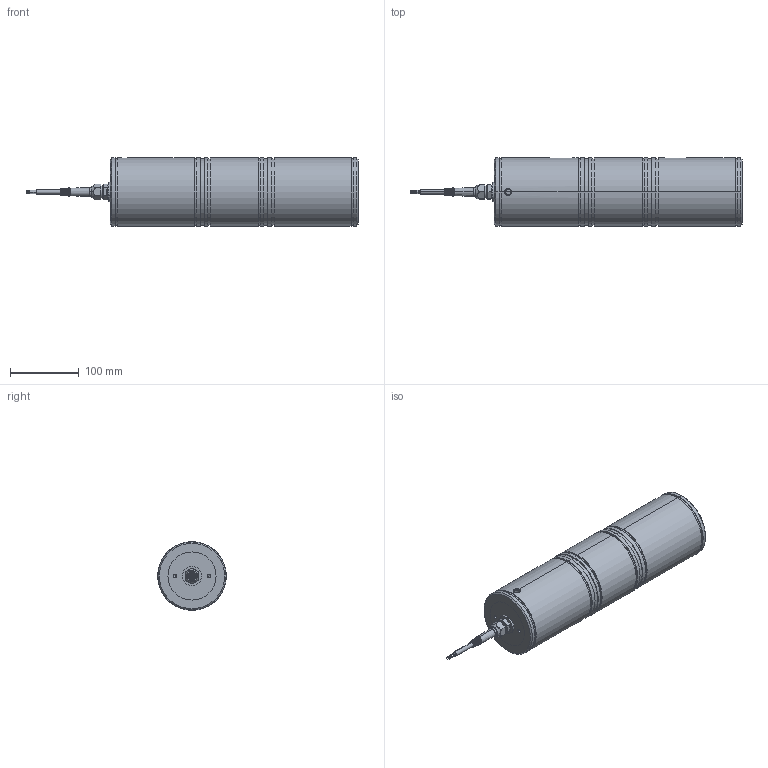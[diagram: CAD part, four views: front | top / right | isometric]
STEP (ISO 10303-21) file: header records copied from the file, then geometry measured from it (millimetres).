
FILE_DESCRIPTION (( 'STEP AP214' ), '1' );
FILE_NAME ('KISD-6R 400 kN Load Cell.STEP', '2021-06-30T13:30:48', ( '' ), ( '' ), 'SwSTEP 2.0', 'SolidWorks 2021', '' );
FILE_SCHEMA (( 'AUTOMOTIVE_DESIGN' ));
Length unit declared in the file: millimetre
Products named in the file (9): spring pin slotted_ld_iso_ISO 13337 - 10 x 16 - St; Hylsa 400 kN; KISD-6R 400 kN Load Cell; Kabel; Pg9 - 1009.52 6_2_14; 700709 Silicone KISD 400kN; M26x1.5 - Pg9 - 6369829; Mätelement KISD 400 kN; Koenig-MB-600-140-monterad-colly_Koenig-MB-600-140-Colly
Assembly tree (11 placements, depth 2):
  KISD-6R 400 kN Load Cell
    Mätelement KISD 400 kN
    Hylsa 400 kN  x2
    M26x1.5 - Pg9 - 6369829
    Pg9 - 1009.52 6_2_14
    Kabel
    Koenig-MB-600-140-monterad-colly_Koenig-MB-600-140-Colly
    700709 Silicone KISD 400kN  x2
    spring pin slotted_ld_iso_ISO 13337 - 10 x 16 - St  x2
Bounding box: 482.5 x 100 x 100 mm (x, y, z)
Volume: 2707349.4 mm3; surface area: 286836.6 mm2
Topology: 11 solids, 14 shells, 372 faces, 822 edges, 509 vertices
Faces by surface type: cylinder 151, cone 101, plane 88, bspline 16, torus 14, sphere 2
Entity records: 14251 total; most frequent: CARTESIAN_POINT 6099, DIRECTION 1567, ORIENTED_EDGE 1406, EDGE_CURVE 703, AXIS2_PLACEMENT_3D 666, VERTEX_POINT 439, EDGE_LOOP 372, CIRCLE 347
